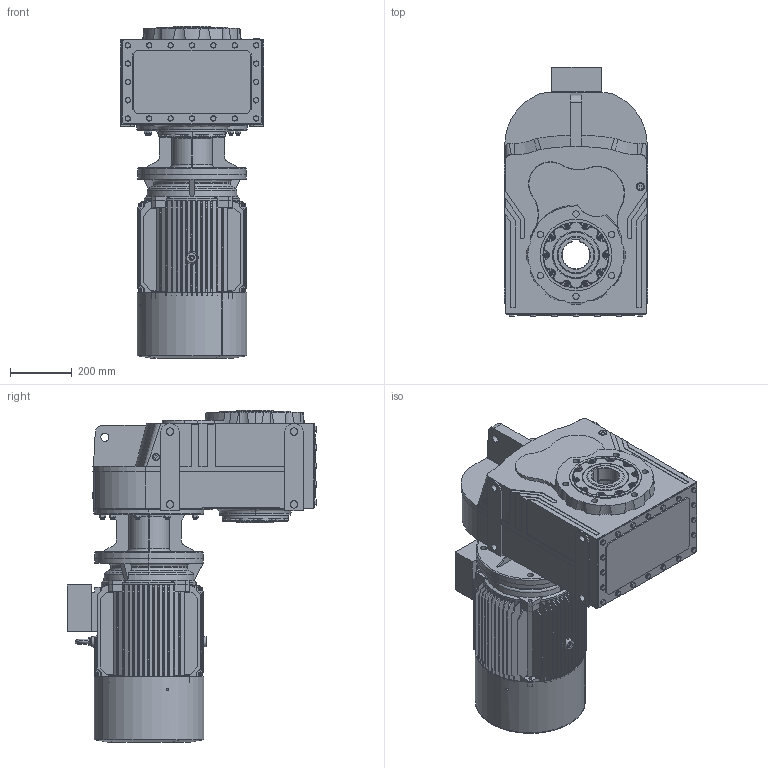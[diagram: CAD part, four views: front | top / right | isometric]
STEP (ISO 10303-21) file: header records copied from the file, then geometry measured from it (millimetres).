
FILE_DESCRIPTION (( 'STEP AP203' ), '1' );
FILE_NAME ('DV772-DV773-M3-180M.STEP', '2019-07-23T12:20:08', ( '' ), ( '' ), 'SwSTEP 2.0', 'SolidWorks 2012', '' );
FILE_SCHEMA (( 'CONFIG_CONTROL_DESIGN' ));
Products named in the file (12): Y2-180-4.6.8+ª-¯ª­-È®+_-++ñ; Y2-180MB5+À+¿_-++ñ; DV772-DV773-M3-180M; M3-180M-FF-B5; Y2-180+¦i-_-++ñ; Y2-180C++A+¦-¯ª¦+¦_-++ñ; Eyebolts GB_GB_FASTENER_SCREWS_FRS M12_1; Y2-180-4.6.8-ª+---®+_-++ñ; ML22A_Varsayìlan; 63180B5_Varsayìlan; D773_Varsayìlan; DN_77_3_0_A-B18_B5_ML22A_0_0_0_0_0_0_0_0_0_0_0_0_M1
Assembly tree (11 placements, depth 3):
  DV772-DV773-M3-180M
    DN_77_3_0_A-B18_B5_ML22A_0_0_0_0_0_0_0_0_0_0_0_0_M1
      D773_Varsayìlan
      63180B5_Varsayìlan
      ML22A_Varsayìlan
    M3-180M-FF-B5
      Y2-180C++A+¦-¯ª¦+¦_-++ñ
      Y2-180+¦i-_-++ñ
      Y2-180-4.6.8-ª+---®+_-++ñ
      Eyebolts GB_GB_FASTENER_SCREWS_FRS M12_1
      Y2-180MB5+À+¿_-++ñ
      Y2-180-4.6.8+ª-¯ª­-È®+_-++ñ
Bounding box: 464 x 804.95 x 1071 mm (x, y, z)
Volume: 94339294.2 mm3; surface area: 5069937.5 mm2
Topology: 12 solids, 12 shells, 2901 faces, 7375 edges, 4577 vertices
Faces by surface type: plane 1245, cylinder 731, cone 615, bspline 274, torus 36
Entity records: 101454 total; most frequent: CARTESIAN_POINT 32338, ORIENTED_EDGE 14510, DIRECTION 13929, EDGE_CURVE 7255, AXIS2_PLACEMENT_3D 5322, VERTEX_POINT 4557, LINE 3285, VECTOR 3285
